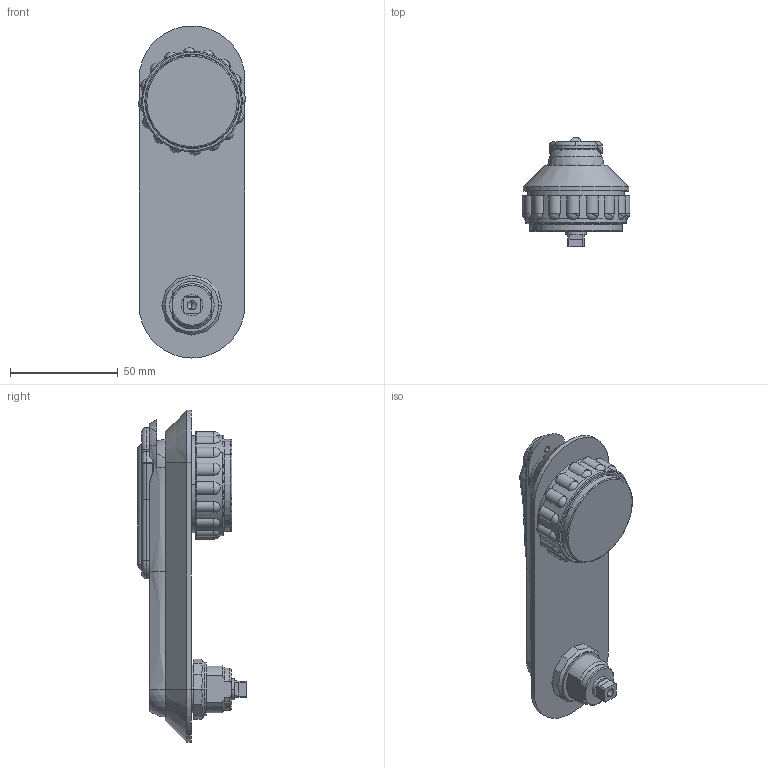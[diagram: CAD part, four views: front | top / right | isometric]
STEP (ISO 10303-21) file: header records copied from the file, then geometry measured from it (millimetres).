
FILE_DESCRIPTION (( 'STEP AP214' ), '1' );
FILE_NAME ('RS400..STEP', '2010-02-24T17:56:13', ( 'Techniczny' ), ( 'RST Roztocze' ), 'SwSTEP 2.0', 'SolidWorks 2010', '' );
FILE_SCHEMA (( 'AUTOMOTIVE_DESIGN' ));
Length unit declared in the file: millimetre
Products named in the file (11): 1B RS 400.01.02.00; 1B.RS 100.01.06.00; 1B.RS100.01.03.00; 1B.RS300.01.05.00; 1B.RS100.01.04.00; Zapinka RESS; 1B.RS400.02.03.01_Default; 1B. RS100.02.02.00; 1B.RS400.02.01.00_Default; RS400.; 1B.RS400.01.01.00_Default
Assembly tree (10 placements, depth 2):
  RS400.
    Zapinka RESS
    1B RS 400.01.02.00
    1B.RS100.01.04.00
    1B.RS300.01.05.00
    1B.RS400.02.01.00_Default
    1B. RS100.02.02.00
    1B.RS100.01.03.00
    1B.RS400.02.03.01_Default
    1B.RS400.01.01.00_Default
    1B.RS 100.01.06.00
Bounding box: 49.85 x 50.51 x 154 mm (x, y, z)
Volume: 92994.8 mm3; surface area: 55471.1 mm2
Topology: 10 solids, 10 shells, 458 faces, 1204 edges, 762 vertices
Faces by surface type: plane 153, cylinder 146, torus 64, bspline 36, sphere 31, cone 28
Entity records: 17852 total; most frequent: CARTESIAN_POINT 5720, ORIENTED_EDGE 2358, DIRECTION 2320, EDGE_CURVE 1179, AXIS2_PLACEMENT_3D 915, VERTEX_POINT 753, EDGE_LOOP 490, VECTOR 490
